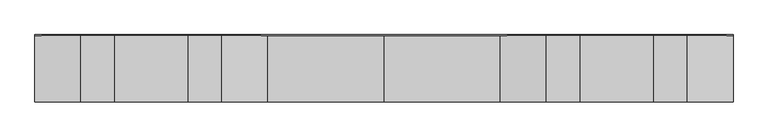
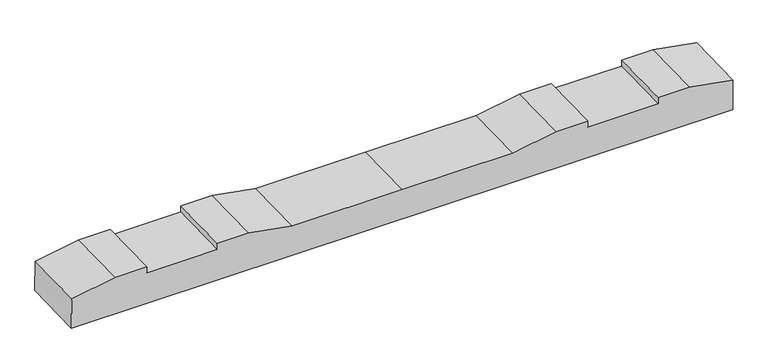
"""IFC4 building model written with IfcOpenShell, lengths in millimetres: proxy geometry, 轨枕-立面角度 : 轨枕-立面角度."""

import ifcopenshell
import ifcopenshell.guid

model = None  # the IFC model being written
_history = None  # IfcOwnerHistory: only IFC2X3 demands one
_inside = {}  # id of a spatial element -> (the spatial element, [elements in it])
_under = {}  # id of a project, library or spatial element -> (it, [spatial elements below it])
_declared = {}  # id of a project -> (the project, [libraries it declares])
_typed = {}  # id of a type object -> (the type object, [elements of that type])
_made_of = {}  # id of a material, layer set ... -> (it, [elements and type objects made of it])


def new_model(schema):
    """Start an empty IFC model of exactly this schema.

    Asked for "IFC4X3", IfcOpenShell would pick the latest addendum, in which some entities
    have other attributes; the version numbers below select the first issue.
    IFC2X3 requires an IfcOwnerHistory on every rooted entity: one is made here for all.
    """
    global model, _history
    if schema == "IFC4X3":
        model = ifcopenshell.file(schema_version=(4, 3, 0, 0))
    else:
        model = ifcopenshell.file(schema=schema)
    _inside.clear()
    _under.clear()
    _declared.clear()
    _typed.clear()
    _made_of.clear()
    _history = None
    if model.schema == "IFC2X3":
        org = make("IfcOrganization", Name="unknown")
        user = make(
            "IfcPersonAndOrganization",
            ThePerson=make("IfcPerson", FamilyName="unknown"),
            TheOrganization=org,
        )
        app = make(
            "IfcApplication",
            ApplicationDeveloper=org,
            Version="unknown",
            ApplicationFullName="unknown",
            ApplicationIdentifier="unknown",
        )
        _history = make(
            "IfcOwnerHistory",
            OwningUser=user,
            OwningApplication=app,
            ChangeAction="ADDED",
            CreationDate=0,
        )
    return model


def make(cls, **values):
    """One entity of the class cls with the attributes given. An attribute that is None is left unset."""
    return model.create_entity(
        cls, **{name: value for name, value in values.items() if value is not None}
    )


def rooted(cls, **values):
    """An entity with a GlobalId (a new one), such as an element, a storey or a relation."""
    return make(cls, GlobalId=ifcopenshell.guid.new(), OwnerHistory=_history, **values)


def si_unit(unit_type, name, prefix=None):
    """IfcSIUnit, for example si_unit("LENGTHUNIT", "METRE", prefix="MILLI")."""
    return make("IfcSIUnit", UnitType=unit_type, Prefix=prefix, Name=name)


def assignment(units):
    """IfcUnitAssignment: the units of a project."""
    return None if units is None else make("IfcUnitAssignment", Units=units)


def point(xyz):
    """IfcCartesianPoint."""
    return None if xyz is None else make("IfcCartesianPoint", Coordinates=xyz)


def direction(xyz):
    """IfcDirection."""
    return None if xyz is None else make("IfcDirection", DirectionRatios=xyz)


def frame(location, z_axis=None, x_axis=None):
    """IfcAxis2Placement3D, a coordinate frame: its origin and axes. An axis left out is left unset."""
    return make(
        "IfcAxis2Placement3D",
        Location=point(location),
        Axis=direction(z_axis),
        RefDirection=direction(x_axis),
    )


def origin():
    """The frame at (0, 0, 0) with its axes left unset."""
    return frame((0.0, 0.0, 0.0))


def place(relative_to, where):
    """IfcLocalPlacement: puts the frame where relative to a parent placement (None: the world)."""
    return make(
        "IfcLocalPlacement", PlacementRelTo=relative_to, RelativePlacement=where
    )


def context(
    kind, dimensions, precision=None, world=None, true_north=None, identifier=None
):
    """IfcGeometricRepresentationContext, for example the 3D "Model" context."""
    return make(
        "IfcGeometricRepresentationContext",
        ContextIdentifier=identifier,
        ContextType=kind,
        CoordinateSpaceDimension=dimensions,
        Precision=precision,
        WorldCoordinateSystem=world,
        TrueNorth=true_north,
    )


def project(units=None, contexts=None):
    """IfcProject with its units and contexts."""
    return rooted(
        "IfcProject",
        Name="project",
        RepresentationContexts=contexts,
        UnitsInContext=assignment(units),
    )


def spatial(cls, under=None, at=None, **own):
    """A site, building, storey or space (cls), placed at a placement, below another one or the project."""
    s = rooted(cls, ObjectPlacement=at, **own)
    if under is not None:
        _under.setdefault(under.id(), (under, []))[1].append(s)
    return s


def polyline(points):
    """IfcPolyline through the points."""
    return make("IfcPolyline", Points=[point(p) for p in points])


def outline(outer, holes=None, kind="AREA"):
    """IfcArbitraryClosedProfileDef: a profile drawn as a closed curve; with holes, ...WithVoids."""
    if holes is None:
        return make("IfcArbitraryClosedProfileDef", ProfileType=kind, OuterCurve=outer)
    return make(
        "IfcArbitraryProfileDefWithVoids",
        ProfileType=kind,
        OuterCurve=outer,
        InnerCurves=holes,
    )


def extrude(swept, where, along, depth):
    """IfcExtrudedAreaSolid: the profile swept, set in the frame where, extruded along a direction by depth."""
    return make(
        "IfcExtrudedAreaSolid",
        SweptArea=swept,
        Position=where,
        ExtrudedDirection=direction(along),
        Depth=depth,
    )


def shape(context_of_items, identifier, shape_type, items):
    """IfcShapeRepresentation: the items that make up one representation, for example the "Body"."""
    return make(
        "IfcShapeRepresentation",
        ContextOfItems=context_of_items,
        RepresentationIdentifier=identifier,
        RepresentationType=shape_type,
        Items=items,
    )


def source(mapping_origin, context_of_items, identifier, shape_type, items):
    """IfcRepresentationMap: a shape defined once, which mapped items show again and again."""
    return make(
        "IfcRepresentationMap",
        MappingOrigin=mapping_origin,
        MappedRepresentation=shape(context_of_items, identifier, shape_type, items),
    )


def transform(
    local_origin,
    x_axis=None,
    y_axis=None,
    z_axis=None,
    scale=None,
    scale2=None,
    scale3=None,
    uniform=True,
):
    """IfcCartesianTransformationOperator3D, or its non-uniform kind. x_axis, y_axis, z_axis: its Axis1, 2, 3."""
    if uniform:
        return make(
            "IfcCartesianTransformationOperator3D",
            Axis1=direction(x_axis),
            Axis2=direction(y_axis),
            LocalOrigin=point(local_origin),
            Scale=scale,
            Axis3=direction(z_axis),
        )
    return make(
        "IfcCartesianTransformationOperator3DnonUniform",
        Axis1=direction(x_axis),
        Axis2=direction(y_axis),
        LocalOrigin=point(local_origin),
        Scale=scale,
        Axis3=direction(z_axis),
        Scale2=scale2,
        Scale3=scale3,
    )


def mapped(mapping_source, mapping_target):
    """IfcMappedItem: shows the shape of a source again, moved by a transform."""
    return make(
        "IfcMappedItem", MappingSource=mapping_source, MappingTarget=mapping_target
    )


def made_of(thing, what):
    """Note that an element or type object is made of a material, layer set ...; save() writes the relation."""
    if what is not None:
        _made_of.setdefault(what.id(), (what, []))[1].append(thing)
    return thing


def element(
    cls,
    number,
    at=None,
    inside=None,
    cuts=None,
    type_object=None,
    material=None,
    context=None,
    identifier="Body",
    shape_type=None,
    held_by="IfcProductDefinitionShape",
    body=None,
    shapes=None,
    **own,
):
    """One element of the class cls, such as IfcWall. Its Tag is "e" and its number.

    at: its placement. inside: the storey or other place that contains it. cuts: it is an
    opening in that element (IfcRelVoidsElement). A single representation is given by context,
    identifier, shape_type and body (its items); several are given by shapes. held_by: the class
    of the entity that holds the representations. save() writes the other relations.
    """
    e = rooted(cls, Tag="e%d" % number, ObjectPlacement=at, **own)
    if body is not None:
        shapes = [shape(context, identifier, shape_type, body)]
    if shapes is not None:
        e.Representation = make(held_by, Representations=shapes)
    if inside is not None:
        _inside.setdefault(inside.id(), (inside, []))[1].append(e)
    if cuts is not None:
        rooted(
            "IfcRelVoidsElement", RelatingBuildingElement=cuts, RelatedOpeningElement=e
        )
    if type_object is not None:
        _typed.setdefault(type_object.id(), (type_object, []))[1].append(e)
    return made_of(e, material)


def aggregate(whole, parts):
    """IfcRelAggregates: a whole, such as a stair, and the parts it consists of."""
    return rooted("IfcRelAggregates", RelatingObject=whole, RelatedObjects=parts)


def save(model, path):
    """Write the relations noted so far, then the file.

    IfcRelAggregates (storeys below a building ...), IfcRelContainedInSpatialStructure (elements
    in a storey), IfcRelDefinesByType, IfcRelAssociatesMaterial and IfcRelDeclares: one each for
    every whole, place, type object, material and project.
    """
    for whole, parts in _under.values():
        aggregate(whole, parts)
    for where, things in _inside.values():
        rooted(
            "IfcRelContainedInSpatialStructure",
            RelatedElements=things,
            RelatingStructure=where,
        )
    for kind, things in _typed.values():
        rooted("IfcRelDefinesByType", RelatedObjects=things, RelatingType=kind)
    for what, things in _made_of.values():
        rooted("IfcRelAssociatesMaterial", RelatedObjects=things, RelatingMaterial=what)
    for by, libraries in _declared.values():
        rooted("IfcRelDeclares", RelatingContext=by, RelatedDefinitions=libraries)
    model.write(path)


def generic_models_c93b52b8(model_context):
    return source(origin(), model_context, "Body", "SweptSolid", [
        extrude(outline(polyline([(0.0, 0.0), (2099.7669328, 0.0), (2099.7669328, -100.020689), (1961.8834664, -124.5), (1861.8834664, -124.5), (1861.8834664, -104.5000001), (1637.8834664, -104.5000001), (1637.8834664, -124.5), (1537.8834664, -124.5), (1399.8834664, -100.0000001), (1049.8834664, -100.0000001), (699.8834664, -100.0000001), (561.8834664, -124.5), (461.8834664, -124.5), (461.8834664, -104.5000001), (237.8834664, -104.5000001), (237.8834664, -124.5), (137.8834664, -124.5), (0.0, -100.020689), (0.0, 0.0)])), frame((-1049.8834664, -97.4107521, -106.9177038), z_axis=(0.0, 0.9997000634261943, 0.024490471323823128), x_axis=(1.0, 0.0, 0.0)), (0.0, 0.0, 1.0), 200.0),
    ])


if __name__ == "__main__":
    model = new_model("IFC4")
    model_context = context("Model", 3, world=origin())
    ifc_project = project(units=[si_unit("LENGTHUNIT", "METRE", prefix="MILLI")], contexts=[model_context])
    site = spatial("IfcSite", under=ifc_project)
    building = spatial("IfcBuilding", under=site)
    placement = place(None, origin())
    generic_models_shape = generic_models_c93b52b8(model_context)
    element("IfcBuildingElementProxy", 1, Name="轨枕-立面角度 : 轨枕-立面角度", ObjectType="轨枕-立面角度 : 轨枕-立面角度", at=placement, inside=building, context=model_context, shape_type="MappedRepresentation", body=[
        mapped(generic_models_shape, transform((0.0, 0.0, 0.0), x_axis=(1.0, 0.0, 0.0), y_axis=(0.0, 1.0, 0.0), z_axis=(0.0, 0.0, 1.0))),
    ])
    save(model, "model.ifc")
